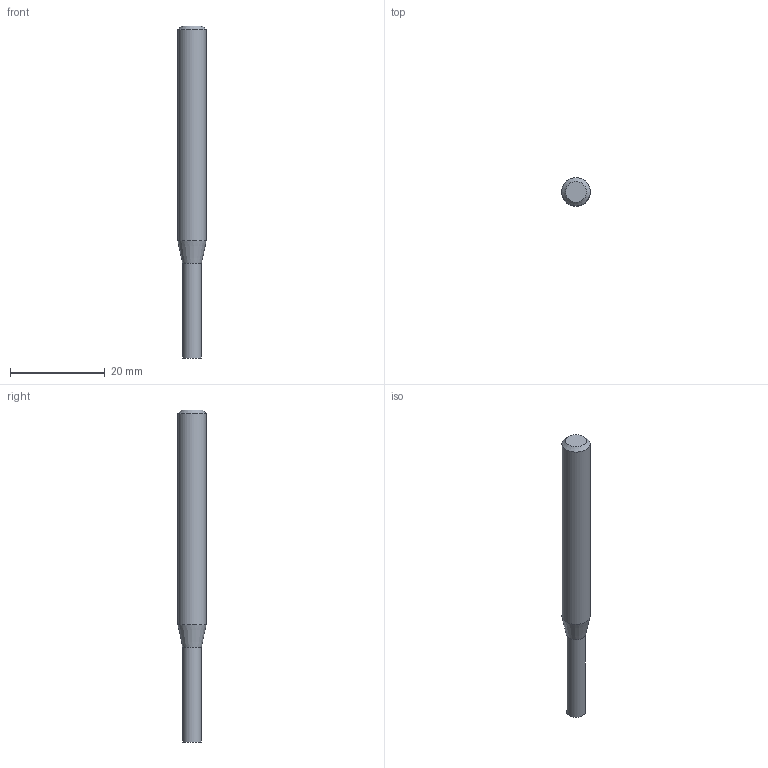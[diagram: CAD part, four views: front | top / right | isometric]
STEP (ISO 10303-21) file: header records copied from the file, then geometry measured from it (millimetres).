
FILE_DESCRIPTION((''),'2;1');
FILE_NAME('C:\Users\nsx150\AppData\Local\Temp\Mastercam 2021\AMKO7YXE3Q\TEMP.step','2024-03-15T17:54:59',(''),(''),'STEP Write','Mastercam 2021 ... CNC Software, Inc.','');
FILE_SCHEMA(('AUTOMOTIVE_DESIGN'));
Length unit declared in the file: millimetre
Products named in the file (1): None
Bounding box: 6 x 6 x 70 mm (x, y, z)
Volume: 1620.1 mm3; surface area: 1237 mm2
Topology: 2 solids, 2 shells, 8 faces, 10 edges, 6 vertices
Faces by surface type: plane 4, cylinder 2, cone 2
Full cylindrical faces by diameter (mm): 4 x1, 6 x1
Entity records: 190 total; most frequent: DIRECTION 32, CARTESIAN_POINT 22, AXIS2_PLACEMENT_3D 16, ORIENTED_EDGE 12, EDGE_LOOP 12, STYLED_ITEM 11, ADVANCED_FACE 8, VERTEX_POINT 6
